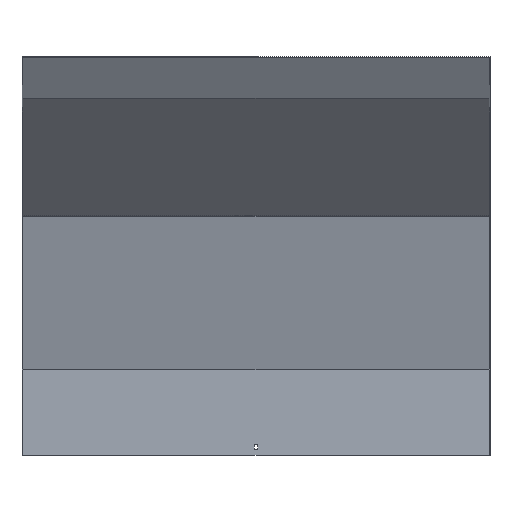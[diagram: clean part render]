
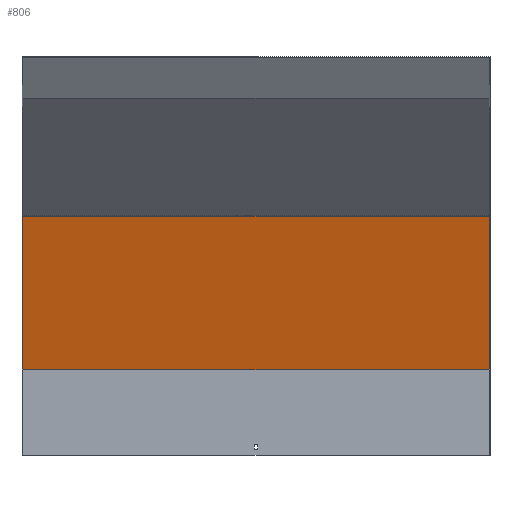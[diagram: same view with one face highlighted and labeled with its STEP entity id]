
A CAD part, front view. The second image highlights one B-rep face of the part: STEP entity #806.
In plain terms, the highlighted planar face has unit normal (0, -0.966, -0.259).
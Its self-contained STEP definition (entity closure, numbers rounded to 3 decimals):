
#2 = DIRECTION ( 'NONE',  ( -1., 0., 0. ) ) ;
#54 = EDGE_CURVE ( 'NONE', #338, #991, #689, .T. ) ;
#65 = PLANE ( 'NONE',  #687 ) ;
#77 = ORIENTED_EDGE ( 'NONE', *, *, #54, .F. ) ;
#86 = CARTESIAN_POINT ( 'NONE',  ( 451.5, -60.8, 461.388 ) ) ;
#90 = ORIENTED_EDGE ( 'NONE', *, *, #373, .F. ) ;
#92 = EDGE_CURVE ( 'NONE', #338, #419, #693, .T. ) ;
#119 = VECTOR ( 'NONE', #2, 1000. ) ;
#228 = LINE ( 'NONE', #827, #796 ) ;
#338 = VERTEX_POINT ( 'NONE', #570 ) ;
#373 = EDGE_CURVE ( 'NONE', #991, #1002, #228, .T. ) ;
#383 = CARTESIAN_POINT ( 'NONE',  ( 451.5, 17.87, 167.788 ) ) ;
#410 = ORIENTED_EDGE ( 'NONE', *, *, #92, .T. ) ;
#417 = EDGE_CURVE ( 'NONE', #419, #1002, #860, .T. ) ;
#419 = VERTEX_POINT ( 'NONE', #1019 ) ;
#424 = CARTESIAN_POINT ( 'NONE',  ( -450., 18.5, 165.436 ) ) ;
#434 = CARTESIAN_POINT ( 'NONE',  ( 451.5, 18.5, 165.436 ) ) ;
#501 = CARTESIAN_POINT ( 'NONE',  ( -450., -60.8, 461.388 ) ) ;
#549 = EDGE_LOOP ( 'NONE', ( #90, #77, #410, #879 ) ) ;
#555 = DIRECTION ( 'NONE',  ( 0., -0.966, -0.259 ) ) ;
#570 = CARTESIAN_POINT ( 'NONE',  ( 450., 18.5, 165.436 ) ) ;
#687 = AXIS2_PLACEMENT_3D ( 'NONE', #383, #555, #749 ) ;
#689 = LINE ( 'NONE', #434, #119 ) ;
#693 = LINE ( 'NONE', #1031, #892 ) ;
#696 = VECTOR ( 'NONE', #1112, 1000. ) ;
#749 = DIRECTION ( 'NONE',  ( 0., 0.259, -0.966 ) ) ;
#796 = VECTOR ( 'NONE', #989, 1000. ) ;
#806 = ADVANCED_FACE ( 'NONE', ( #998 ), #65, .T. ) ;
#827 = CARTESIAN_POINT ( 'NONE',  ( -450., 58.62, 15.707 ) ) ;
#860 = LINE ( 'NONE', #86, #696 ) ;
#879 = ORIENTED_EDGE ( 'NONE', *, *, #417, .T. ) ;
#892 = VECTOR ( 'NONE', #1048, 1000. ) ;
#989 = DIRECTION ( 'NONE',  ( 0., -0.259, 0.966 ) ) ;
#991 = VERTEX_POINT ( 'NONE', #424 ) ;
#998 = FACE_OUTER_BOUND ( 'NONE', #549, .T. ) ;
#1002 = VERTEX_POINT ( 'NONE', #501 ) ;
#1019 = CARTESIAN_POINT ( 'NONE',  ( 450., -60.8, 461.388 ) ) ;
#1031 = CARTESIAN_POINT ( 'NONE',  ( 450., 58.62, 15.707 ) ) ;
#1048 = DIRECTION ( 'NONE',  ( 0., -0.259, 0.966 ) ) ;
#1112 = DIRECTION ( 'NONE',  ( -1., 0., 0. ) ) ;
